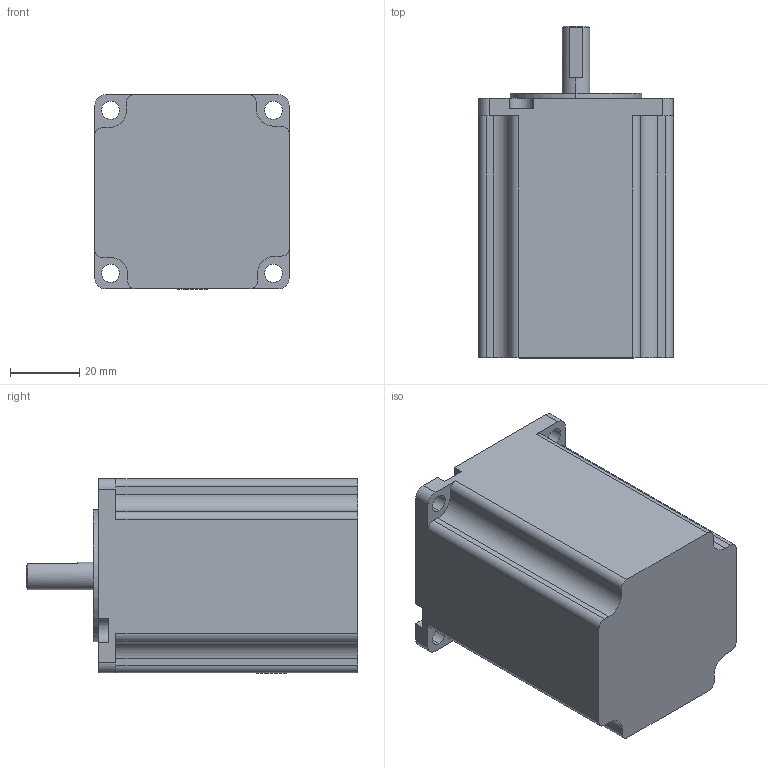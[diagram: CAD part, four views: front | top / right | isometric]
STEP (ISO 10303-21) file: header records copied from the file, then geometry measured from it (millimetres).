
FILE_DESCRIPTION (( 'STEP AP203' ), '1' );
FILE_NAME ('57H275-4-4A-001.STEP', '2019-05-15T03:05:31', ( '' ), ( '' ), 'SwSTEP 2.0', 'SolidWorks 2017', '' );
FILE_SCHEMA (( 'CONFIG_CONTROL_DESIGN' ));
Length unit declared in the file: millimetre
Products named in the file (1): 57H275-4-4A-001
Bounding box: 56.2 x 96 x 56.3 mm (x, y, z)
Volume: 215316.9 mm3; surface area: 22908.4 mm2
Topology: 1 solids, 1 shells, 73 faces, 201 edges, 133 vertices
Faces by surface type: plane 36, cylinder 35, cone 2
Entity records: 2440 total; most frequent: DIRECTION 421, CARTESIAN_POINT 414, ORIENTED_EDGE 402, EDGE_CURVE 201, AXIS2_PLACEMENT_3D 148, VERTEX_POINT 133, VECTOR 125, LINE 125
